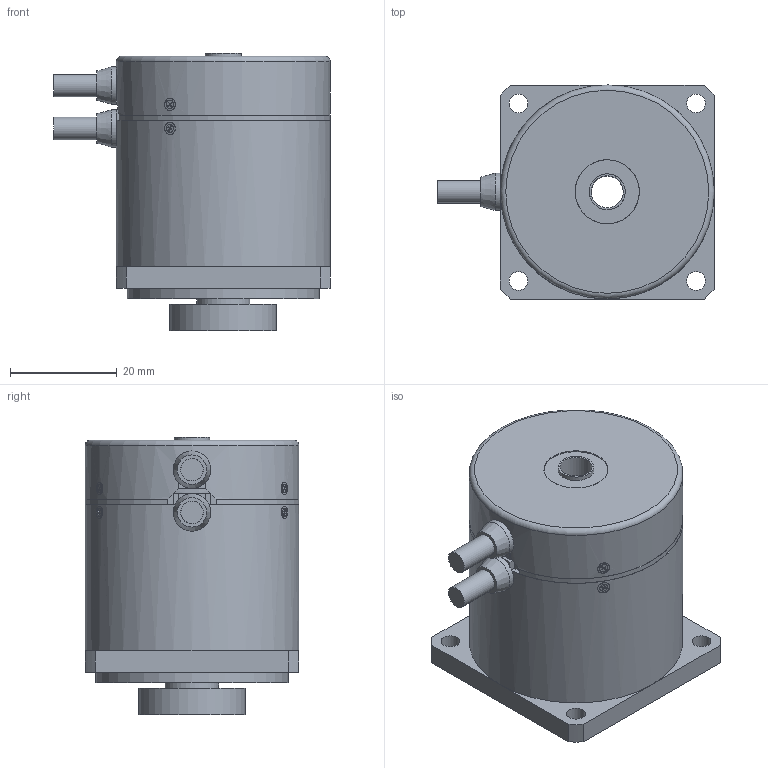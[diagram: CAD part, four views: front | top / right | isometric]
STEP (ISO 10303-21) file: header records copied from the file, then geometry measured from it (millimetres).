
FILE_DESCRIPTION(('STEP AP214'),'1');
FILE_NAME('MDH-4018.stp','2017-10-10T07:30:05',(' '),(' '),'Spatial InterOp 3D',' ',' ');
FILE_SCHEMA(('automotive_design'));
Length unit declared in the file: millimetre
Products named in the file (11): オイルシール; ケーブル; タッピングネジ M1.4x2.2; サラコネジ M1.4x2.5; ｱﾝｷﾞｭﾗﾍﾞｱﾘﾝｸﾞ MTA08-19; ブッシュ; カバー_H; ベース; シャフト_H4018; ケース_4018
Assembly tree (17 placements, depth 2):
  (unnamed)
    オイルシール
    ケーブル  x2
    タッピングネジ M1.4x2.2  x3
    サラコネジ M1.4x2.5  x3
    ｱﾝｷﾞｭﾗﾍﾞｱﾘﾝｸﾞ MTA08-19  x2
    ブッシュ  x2
    カバー_H
    ベース
    シャフト_H4018
    ケース_4018
Bounding box: 51.7 x 40 x 52 mm (x, y, z)
Volume: 22042.3 mm3; surface area: 28319.5 mm2
Topology: 17 solids, 19 shells, 330 faces, 775 edges, 509 vertices
Faces by surface type: plane 196, cylinder 108, cone 24, torus 2
Full cylindrical faces by diameter (mm): 1.1 x6, 1.4 x12, 1.5 x3, 1.6 x9, 2.05 x6, 2.3 x6, 3.5 x4, 4.2 x4, 6 x1, 6.7 x2, 7 x2, 7.3 x1, 8 x4, 10 x2, 11 x4, 12 x4, 13 x1, 15 x2, 16 x4, 17 x2, 19 x4, 20 x1, 24 x1, 36 x1, 37 x1, 38 x1, 38.2 x1, 39 x2, 40 x2
Entity records: 8251 total; most frequent: CARTESIAN_POINT 1662, DIRECTION 981, ORIENTED_EDGE 772, AXIS2_PLACEMENT_3D 393, EDGE_CURVE 386, EDGE_LOOP 377, VERTEX_POINT 304, FACE_OUTER_BOUND 287
